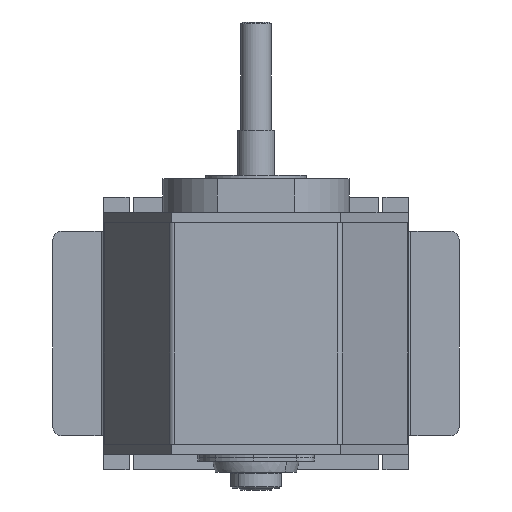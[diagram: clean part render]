
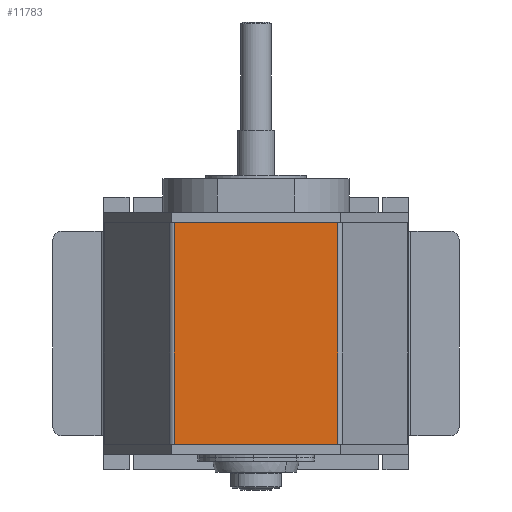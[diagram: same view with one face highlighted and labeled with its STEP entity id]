
A CAD part, front view. The second image highlights one B-rep face of the part: STEP entity #11783.
In plain terms, the highlighted planar face has unit normal (0, -1, 0).
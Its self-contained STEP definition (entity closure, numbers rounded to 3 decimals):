
#293 = VECTOR ( 'NONE', #2508, 1000. ) ;
#296 = LINE ( 'NONE', #2507, #293 ) ;
#384 = VECTOR ( 'NONE', #2294, 1000. ) ;
#391 = LINE ( 'NONE', #2299, #384 ) ;
#569 = LINE ( 'NONE', #14837, #672 ) ;
#672 = VECTOR ( 'NONE', #15239, 1000. ) ;
#897 = FACE_OUTER_BOUND ( 'NONE', #6400, .T. ) ;
#2294 = DIRECTION ( 'NONE',  ( 1., 0., 0. ) ) ;
#2299 = CARTESIAN_POINT ( 'NONE',  ( -50., 0., -65.5 ) ) ;
#2454 = CARTESIAN_POINT ( 'NONE',  ( -48.268, 0., 354.779 ) ) ;
#2455 = DIRECTION ( 'NONE',  ( 0., 0., -1. ) ) ;
#2507 = CARTESIAN_POINT ( 'NONE',  ( -50., 0., 65.5 ) ) ;
#2508 = DIRECTION ( 'NONE',  ( -1., 0., 0. ) ) ;
#4693 = DIRECTION ( 'NONE',  ( -1., 0., 0. ) ) ;
#4696 = DIRECTION ( 'NONE',  ( 0., 1., 0. ) ) ;
#4697 = PLANE ( 'NONE',  #7103 ) ;
#4698 = CARTESIAN_POINT ( 'NONE',  ( -50., 0., 354.779 ) ) ;
#5134 = CARTESIAN_POINT ( 'NONE',  ( -48.268, 0., 65.5 ) ) ;
#5639 = CARTESIAN_POINT ( 'NONE',  ( 48.268, 0., -65.5 ) ) ;
#5736 = CARTESIAN_POINT ( 'NONE',  ( -48.268, 0., -65.5 ) ) ;
#5740 = CARTESIAN_POINT ( 'NONE',  ( 48.268, 0., 65.5 ) ) ;
#6400 = EDGE_LOOP ( 'NONE', ( #9984, #10012, #9471, #9964 ) ) ;
#7103 = AXIS2_PLACEMENT_3D ( 'NONE', #4698, #4696, #4693 ) ;
#8816 = VERTEX_POINT ( 'NONE', #5134 ) ;
#8901 = VERTEX_POINT ( 'NONE', #5740 ) ;
#9471 = ORIENTED_EDGE ( 'NONE', *, *, #15882, .T. ) ;
#9964 = ORIENTED_EDGE ( 'NONE', *, *, #15539, .F. ) ;
#9984 = ORIENTED_EDGE ( 'NONE', *, *, #15972, .T. ) ;
#10012 = ORIENTED_EDGE ( 'NONE', *, *, #15947, .T. ) ;
#10983 = VERTEX_POINT ( 'NONE', #5639 ) ;
#11113 = VERTEX_POINT ( 'NONE', #5736 ) ;
#11783 = ADVANCED_FACE ( 'NONE', ( #897 ), #4697, .F. ) ;
#14837 = CARTESIAN_POINT ( 'NONE',  ( 48.268, 0., 354.779 ) ) ;
#15239 = DIRECTION ( 'NONE',  ( 0., 0., -1. ) ) ;
#15539 = EDGE_CURVE ( 'NONE', #8901, #10983, #569, .T. ) ;
#15882 = EDGE_CURVE ( 'NONE', #11113, #10983, #391, .T. ) ;
#15947 = EDGE_CURVE ( 'NONE', #8816, #11113, #16464, .T. ) ;
#15972 = EDGE_CURVE ( 'NONE', #8901, #8816, #296, .T. ) ;
#16401 = VECTOR ( 'NONE', #2455, 1000. ) ;
#16464 = LINE ( 'NONE', #2454, #16401 ) ;
